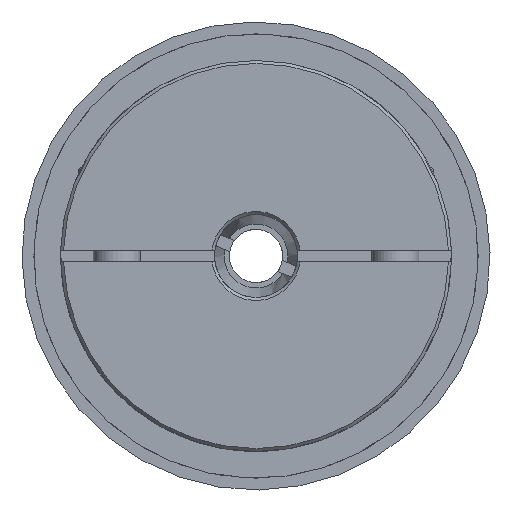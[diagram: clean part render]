
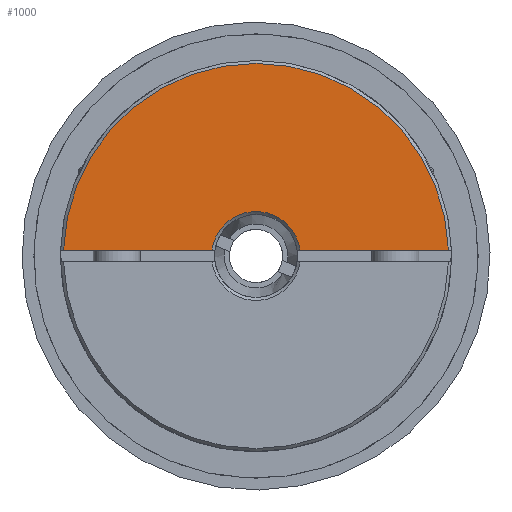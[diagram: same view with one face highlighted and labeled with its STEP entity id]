
A CAD part, left-side view. The second image highlights one B-rep face of the part: STEP entity #1000.
In plain terms, the highlighted planar face has unit normal (-1, 0, 0) as drawn and (1, 0, 0) by its records, which use the part's own axes.
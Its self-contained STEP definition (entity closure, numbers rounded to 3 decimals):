
#1000 = ADVANCED_FACE( '', ( #1860 ), #1861, .T. );
#1860 = FACE_OUTER_BOUND( '', #2827, .T. );
#1861 = PLANE( '', #2828 );
#2827 = EDGE_LOOP( '', ( #4090, #4091, #4092, #4093 ) );
#2828 = AXIS2_PLACEMENT_3D( '', #4094, #4095, #4096 );
#4090 = ORIENTED_EDGE( '', *, *, #4990, .F. );
#4091 = ORIENTED_EDGE( '', *, *, #5122, .T. );
#4092 = ORIENTED_EDGE( '', *, *, #5214, .F. );
#4093 = ORIENTED_EDGE( '', *, *, #5062, .T. );
#4094 = CARTESIAN_POINT( '', ( 31., 0., 33. ) );
#4095 = DIRECTION( '', ( 1., 0., 0. ) );
#4096 = DIRECTION( '', ( 0., 0., -1. ) );
#4990 = EDGE_CURVE( '', #5950, #5952, #5953, .T. );
#5062 = EDGE_CURVE( '', #6061, #5952, #6064, .F. );
#5122 = EDGE_CURVE( '', #5950, #6156, #6159, .T. );
#5214 = EDGE_CURVE( '', #6061, #6156, #6294, .T. );
#5950 = VERTEX_POINT( '', #7211 );
#5952 = VERTEX_POINT( '', #7216 );
#5953 = LINE( '', #7217, #7218 );
#6061 = VERTEX_POINT( '', #7459 );
#6064 = CIRCLE( '', #7465, 7.5 );
#6156 = VERTEX_POINT( '', #7711 );
#6159 = CIRCLE( '', #7717, 32.5 );
#6294 = LINE( '', #8026, #8027 );
#7211 = CARTESIAN_POINT( '', ( 31., 32.485, 1. ) );
#7216 = CARTESIAN_POINT( '', ( 31., 7.433, 1. ) );
#7217 = CARTESIAN_POINT( '', ( 31., 0., 1. ) );
#7218 = VECTOR( '', #8934, 1000. );
#7459 = CARTESIAN_POINT( '', ( 31., -7.433, 1. ) );
#7465 = AXIS2_PLACEMENT_3D( '', #9033, #9034, #9035 );
#7711 = CARTESIAN_POINT( '', ( 31., -32.485, 1. ) );
#7717 = AXIS2_PLACEMENT_3D( '', #9129, #9130, #9131 );
#8026 = CARTESIAN_POINT( '', ( 31., 0., 1. ) );
#8027 = VECTOR( '', #9266, 1000. );
#8934 = DIRECTION( '', ( 0., -1., 0. ) );
#9033 = CARTESIAN_POINT( '', ( 31., 0., 0. ) );
#9034 = DIRECTION( '', ( 1., 0., 0. ) );
#9035 = DIRECTION( '', ( 0., 0., -1. ) );
#9129 = CARTESIAN_POINT( '', ( 31., 0., 0. ) );
#9130 = DIRECTION( '', ( 1., 0., 0. ) );
#9131 = DIRECTION( '', ( 0., 0., -1. ) );
#9266 = DIRECTION( '', ( 0., -1., 0. ) );
